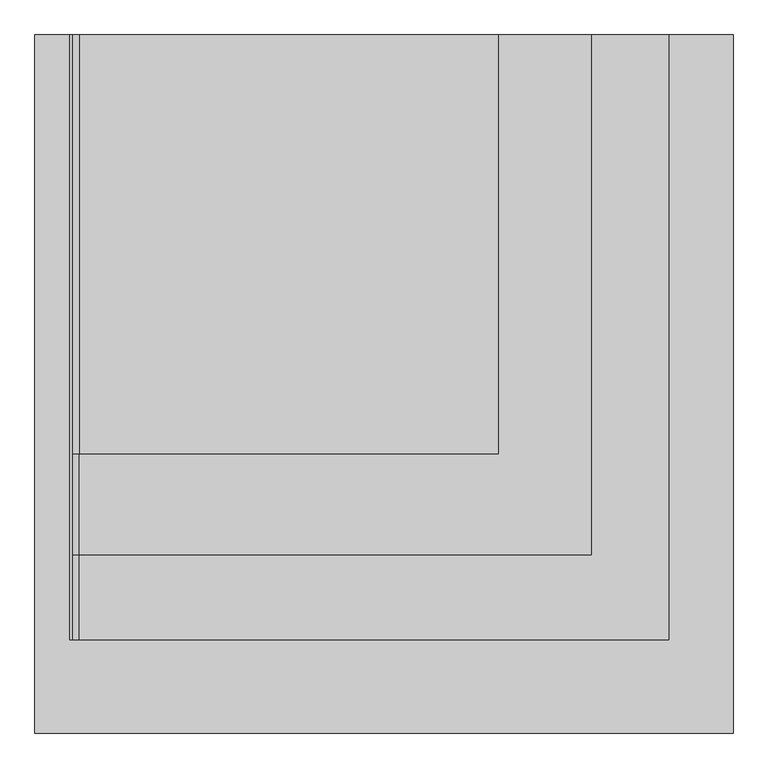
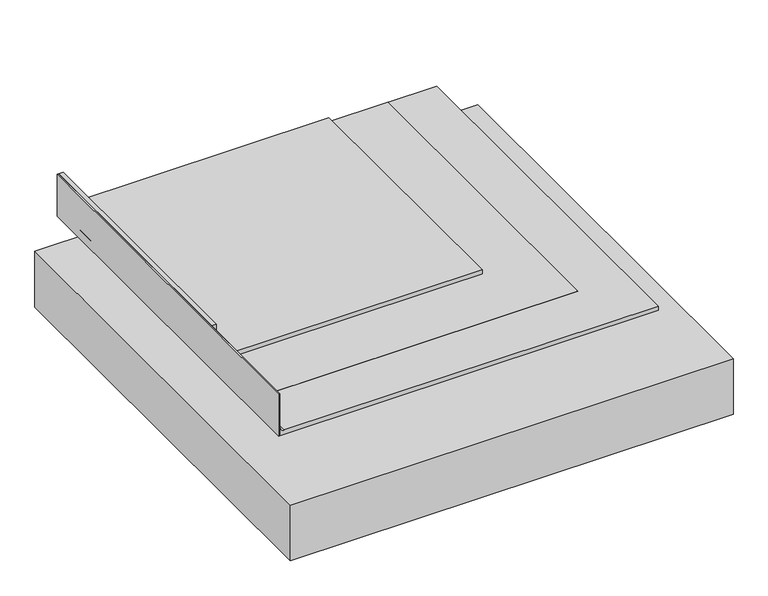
"""IFC4 building model written with IfcOpenShell, lengths in millimetres: proxy geometry, IMPER:IMPER:433934 : IMPER:IMPER:433934."""

from ifc_helpers import new_model, si_unit, point, frame, frame_2d, origin, place, context, project, spatial, polyline, circle_curve, trimmed, segment, composite_curve, outline, extrude, source, transform, mapped, element, save
from ifc_brep_helpers import plane_surface, revolved_surface, advanced_brep


def generic_models_6a595129(model_context):
    return source(origin(), model_context, "Body", "SolidModel", [
        extrude(outline(polyline([(-351.9704105, 145.8700195), (-341.9704105, 145.8700195), (-341.9704105, -2454.1299805), (-351.9704105, -2454.1299805), (-351.9704105, 145.8700195)])), frame((0.0, 0.0, -2.523798), z_axis=(0.0, 0.0, 1.0), x_axis=(1.0, 0.0, 0.0)), (0.0, 0.0, 1.0), 300.0),
        advanced_brep(
        [(-311.9704105, 145.8700195, 27.476202), (2221.8598581, 145.8700195, 27.476202), (2221.8598581, 145.8700195, -2.523798), (-341.9704105, 145.8700195, -2.523798), (-341.9704105, 145.8700195, 57.476202), (-311.9704105, -2454.1299805, 27.476202), (-341.9704105, -2454.1299805, 57.476202), (-341.9704105, -2454.1299805, -2.523798), (2221.8598581, -2454.1299805, -2.523798), (2221.8598581, -2454.1299805, 27.476202)],
        [
            (0, 1),
            (1, 2),
            (2, 3),
            (3, 4),
            (4, 0, circle_curve(frame((-311.9704105, 145.8700195, 57.476202), z_axis=(0.0, -1.0, 0.0), x_axis=(1.0, 0.0, 0.0)), 30.0)),
            (5, 6, circle_curve(frame((-311.9704105, -2454.1299805, 57.476202), z_axis=(0.0, 1.0, 0.0), x_axis=(1.0, 0.0, 0.0)), 30.0)),
            (6, 7),
            (7, 8),
            (8, 9),
            (9, 5),
            (0, 5),
            (9, 1),
            (8, 2),
            (7, 3),
            (6, 4),
        ],
        [
            plane_surface(frame((2221.8598581, 145.8700195, 27.476202), z_axis=(0.0, 1.0, 0.0), x_axis=(1.0, 0.0, 0.0))),
            plane_surface(frame((2221.8598581, -2454.1299805, 27.476202), z_axis=(0.0, -1.0, 0.0), x_axis=(-1.0, 0.0, 0.0))),
            plane_surface(frame((-311.9704105, 145.8700195, 27.476202), z_axis=(0.0, 0.0, 1.0), x_axis=(0.0, -1.0, 0.0))),
            plane_surface(frame((2221.8598581, 145.8700195, 27.476202), z_axis=(1.0, 0.0, 0.0), x_axis=(0.0, -1.0, 0.0))),
            plane_surface(frame((2221.8598581, 145.8700195, -2.523798), z_axis=(0.0, 0.0, -1.0), x_axis=(0.0, -1.0, 0.0))),
            plane_surface(frame((-341.9704105, 145.8700195, -2.523798), z_axis=(-1.0, 0.0, 0.0), x_axis=(0.0, -1.0, 0.0))),
            revolved_surface(polyline([(-281.9704105, -2454.1299805, 57.476202), (-281.9704105, 145.87001950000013, 57.476202)]), (-311.9704105, -2454.1299805, 57.476202), (0.0, -1.0, 0.0)),
        ],
        [
            (0, [[1, 2, 3, 4, 5]]),
            (1, [[6, 7, 8, 9, 10]]),
            (2, [[-1, 11, -10, 12]]),
            (3, [[-2, -12, -9, 13]]),
            (4, [[-3, -13, -8, 14]]),
            (5, [[-4, -14, -7, 15]]),
            (6, [[-5, -15, -6, -11]]),
        ],
    ),
        extrude(outline(composite_curve([segment(polyline([(56.6663512, -340.9591004), (297.476202, -340.9591004), (297.476202, -341.9704105), (57.476202, -341.9704105)]), True, "CONTINUOUS"), segment(trimmed(circle_curve(frame_2d((57.476202, -311.9704105)), 30.0), [point((57.476202, -341.9704105))], [point((27.476202, -311.9704105))], False, "CARTESIAN"), True, "CONTINUOUS"), segment(polyline([(27.476202, -311.9704105), (27.476202, 1889.0408996), (28.5018705, 1889.0408996), (28.5018705, -313.1902924)]), True, "CONTINUOUS"), segment(trimmed(circle_curve(frame_2d((57.476202, -311.9704105)), 29.0), [point((28.5018705, -313.1902924))], [point((56.6663512, -340.9591004))], True, "CARTESIAN"), True, "CONTINUOUS")], self_intersect=False)), frame((0.0, -2087.9297459, 0.0), z_axis=(0.0, 1.0, 0.0), x_axis=(0.0, 0.0, 1.0)), (0.0, 0.0, 1.0), 2233.7997654),
        extrude(outline(composite_curve([segment(polyline([(58.5018705, -310.9866614), (297.476202, -310.9866614), (297.476202, -340.9866614), (55.270033, -340.9866614)]), True, "CONTINUOUS"), segment(trimmed(circle_curve(frame_2d((57.476202, -311.9704105)), 29.1), [point((55.270033, -340.9866614))], [point((28.5018705, -314.6719123))], False, "CARTESIAN"), True, "CONTINUOUS"), segment(polyline([(28.5018705, -314.6719123), (28.5018705, 1490.0753456), (58.5018705, 1490.0753456), (58.5018705, -310.9866614)]), True, "CONTINUOUS")], self_intersect=False)), frame((0.0, -1654.1299805, 0.0), z_axis=(0.0, 1.0, 0.0), x_axis=(0.0, 0.0, 1.0)), (0.0, 0.0, 1.0), 1800.0),
        extrude(outline(polyline([(2498.0295895, 145.8700195), (2498.0295895, -2854.1299805), (-501.9704105, -2854.1299805), (-501.9704105, 145.8700195), (2498.0295895, 145.8700195)])), frame((0.0, 0.0, -602.523798), z_axis=(0.0, 0.0, 1.0), x_axis=(1.0, 0.0, 0.0)), (0.0, 0.0, 1.0), 400.0),
    ])


if __name__ == "__main__":
    model = new_model("IFC4")
    model_context = context("Model", 3, world=origin())
    ifc_project = project(units=[si_unit("LENGTHUNIT", "METRE", prefix="MILLI")], contexts=[model_context])
    site = spatial("IfcSite", under=ifc_project)
    building = spatial("IfcBuilding", under=site)
    placement = place(None, origin())
    generic_models_shape = generic_models_6a595129(model_context)
    element("IfcBuildingElementProxy", 1, Name="IMPER:IMPER:433934 : IMPER:IMPER:433934", ObjectType="IMPER:IMPER:433934 : IMPER:IMPER:433934", at=placement, inside=building, context=model_context, shape_type="MappedRepresentation", body=[
        mapped(generic_models_shape, transform((0.0, 0.0, 0.0), x_axis=(1.0, 0.0, 0.0), y_axis=(0.0, 1.0, 0.0), z_axis=(0.0, 0.0, 1.0))),
    ])
    save(model, "model.ifc")
